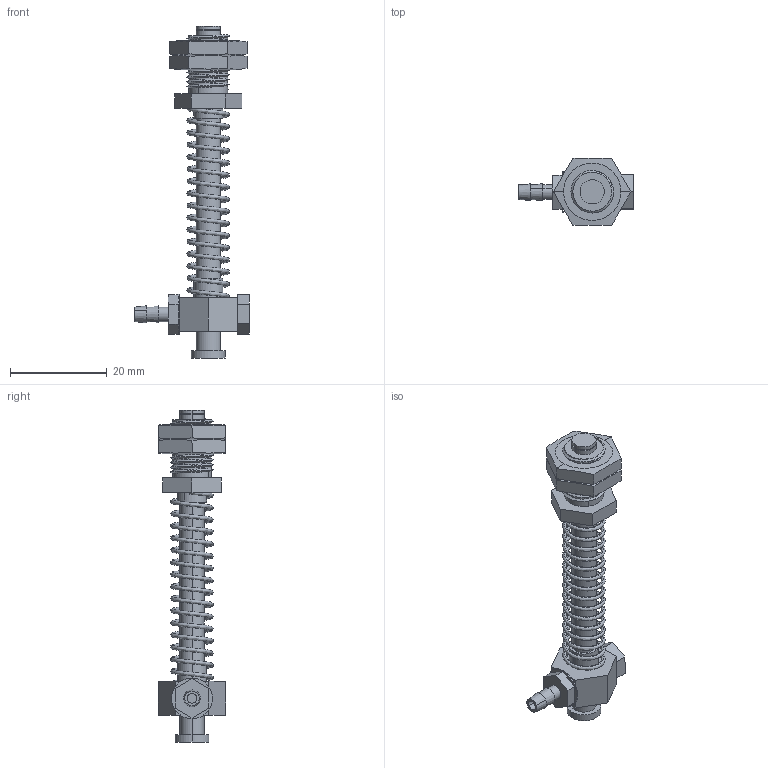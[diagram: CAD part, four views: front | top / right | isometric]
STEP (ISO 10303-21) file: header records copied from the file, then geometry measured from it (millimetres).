
FILE_DESCRIPTION (( 'STEP AP214' ), '1' );
FILE_NAME ('VFST-30M10.STEP', '2019-11-15T09:30:44', ( '微软用户' ), ( '微软中国' ), 'SwSTEP 2.0', 'SolidWorks 2016', '' );
FILE_SCHEMA (( 'AUTOMOTIVE_DESIGN' ));
Length unit declared in the file: millimetre
Products named in the file (1): VFST-30M10
Bounding box: 23.7 x 13.86 x 68.5 mm (x, y, z)
Volume: 3793.3 mm3; surface area: 5410.1 mm2
Topology: 9 solids, 9 shells, 181 faces, 439 edges, 288 vertices
Faces by surface type: cylinder 85, plane 74, cone 12, bspline 10
Entity records: 14835 total; most frequent: CARTESIAN_POINT 8781, ORIENTED_EDGE 878, DIRECTION 737, EDGE_CURVE 439, VERTEX_POINT 288, AXIS2_PLACEMENT_3D 267, EDGE_LOOP 207, LINE 203
